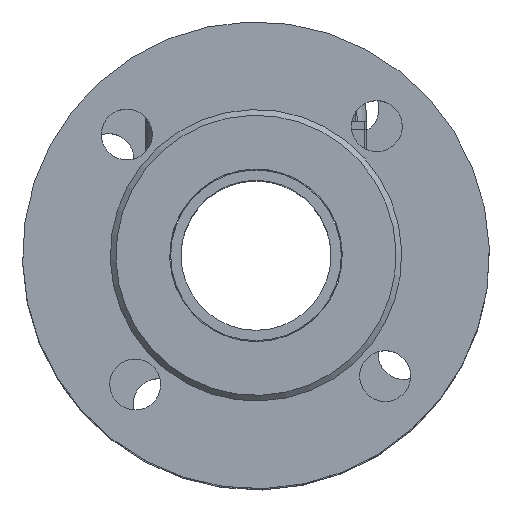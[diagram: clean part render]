
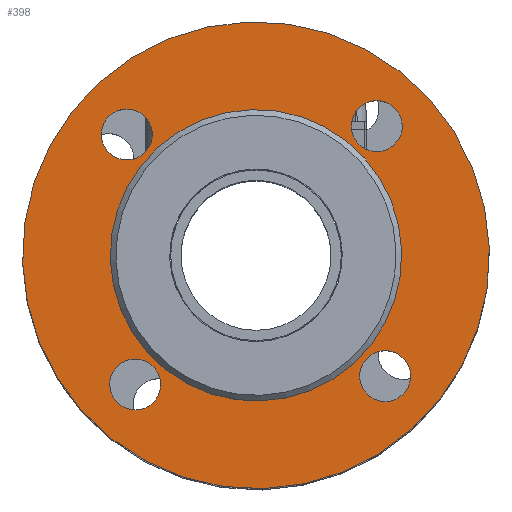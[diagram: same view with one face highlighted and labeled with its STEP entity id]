
A CAD part, top view. The second image highlights one B-rep face of the part: STEP entity #398.
In plain terms, the highlighted planar face has unit normal (0, 0, 1).
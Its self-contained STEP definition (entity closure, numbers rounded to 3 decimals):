
#398 = ADVANCED_FACE( '', ( #936, #937, #938, #939, #940, #941 ), #942, .T. );
#936 = FACE_BOUND( '', #1755, .T. );
#937 = FACE_BOUND( '', #1756, .T. );
#938 = FACE_BOUND( '', #1757, .T. );
#939 = FACE_BOUND( '', #1758, .T. );
#940 = FACE_OUTER_BOUND( '', #1759, .T. );
#941 = FACE_BOUND( '', #1760, .T. );
#942 = PLANE( '', #1761 );
#1755 = EDGE_LOOP( '', ( #5616 ) );
#1756 = EDGE_LOOP( '', ( #5617 ) );
#1757 = EDGE_LOOP( '', ( #5618 ) );
#1758 = EDGE_LOOP( '', ( #5619 ) );
#1759 = EDGE_LOOP( '', ( #5620 ) );
#1760 = EDGE_LOOP( '', ( #5621 ) );
#1761 = AXIS2_PLACEMENT_3D( '', #5622, #5623, #5624 );
#5616 = ORIENTED_EDGE( '', *, *, #7476, .T. );
#5617 = ORIENTED_EDGE( '', *, *, #7477, .T. );
#5618 = ORIENTED_EDGE( '', *, *, #7478, .T. );
#5619 = ORIENTED_EDGE( '', *, *, #7479, .T. );
#5620 = ORIENTED_EDGE( '', *, *, #7480, .T. );
#5621 = ORIENTED_EDGE( '', *, *, #7481, .F. );
#5622 = CARTESIAN_POINT( '', ( 82.5, 0., 18. ) );
#5623 = DIRECTION( '', ( 0., 0., 1. ) );
#5624 = DIRECTION( '', ( 1., 0., 0. ) );
#7476 = EDGE_CURVE( '', #8205, #8205, #8206, .T. );
#7477 = EDGE_CURVE( '', #8207, #8207, #8208, .T. );
#7478 = EDGE_CURVE( '', #8209, #8209, #8210, .T. );
#7479 = EDGE_CURVE( '', #8211, #8211, #8212, .T. );
#7480 = EDGE_CURVE( '', #8213, #8213, #8214, .T. );
#7481 = EDGE_CURVE( '', #8215, #8215, #8216, .T. );
#8205 = VERTEX_POINT( '', #9286 );
#8206 = CIRCLE( '', #9287, 9. );
#8207 = VERTEX_POINT( '', #9288 );
#8208 = CIRCLE( '', #9289, 9. );
#8209 = VERTEX_POINT( '', #9290 );
#8210 = CIRCLE( '', #9291, 9. );
#8211 = VERTEX_POINT( '', #9292 );
#8212 = CIRCLE( '', #9293, 9. );
#8213 = VERTEX_POINT( '', #9294 );
#8214 = CIRCLE( '', #9295, 82.5 );
#8215 = VERTEX_POINT( '', #9296 );
#8216 = CIRCLE( '', #9297, 51.5 );
#9286 = CARTESIAN_POINT( '', ( -44.194, -53.194, 18. ) );
#9287 = AXIS2_PLACEMENT_3D( '', #11792, #11793, #11794 );
#9288 = CARTESIAN_POINT( '', ( 44.194, -53.194, 18. ) );
#9289 = AXIS2_PLACEMENT_3D( '', #11795, #11796, #11797 );
#9290 = CARTESIAN_POINT( '', ( 44.194, 35.194, 18. ) );
#9291 = AXIS2_PLACEMENT_3D( '', #11798, #11799, #11800 );
#9292 = CARTESIAN_POINT( '', ( -44.194, 35.194, 18. ) );
#9293 = AXIS2_PLACEMENT_3D( '', #11801, #11802, #11803 );
#9294 = CARTESIAN_POINT( '', ( 82.5, 0., 18. ) );
#9295 = AXIS2_PLACEMENT_3D( '', #11804, #11805, #11806 );
#9296 = CARTESIAN_POINT( '', ( 51.5, 0., 18. ) );
#9297 = AXIS2_PLACEMENT_3D( '', #11807, #11808, #11809 );
#11792 = CARTESIAN_POINT( '', ( -44.194, -44.194, 18. ) );
#11793 = DIRECTION( '', ( 0., 0., -1. ) );
#11794 = DIRECTION( '', ( 0., -1., 0. ) );
#11795 = CARTESIAN_POINT( '', ( 44.194, -44.194, 18. ) );
#11796 = DIRECTION( '', ( 0., 0., -1. ) );
#11797 = DIRECTION( '', ( 0., -1., 0. ) );
#11798 = CARTESIAN_POINT( '', ( 44.194, 44.194, 18. ) );
#11799 = DIRECTION( '', ( 0., 0., -1. ) );
#11800 = DIRECTION( '', ( 0., -1., 0. ) );
#11801 = CARTESIAN_POINT( '', ( -44.194, 44.194, 18. ) );
#11802 = DIRECTION( '', ( 0., 0., -1. ) );
#11803 = DIRECTION( '', ( 0., -1., 0. ) );
#11804 = CARTESIAN_POINT( '', ( 0., 0., 18. ) );
#11805 = DIRECTION( '', ( 0., 0., 1. ) );
#11806 = DIRECTION( '', ( 1., 0., 0. ) );
#11807 = CARTESIAN_POINT( '', ( 0., 0., 18. ) );
#11808 = DIRECTION( '', ( 0., 0., 1. ) );
#11809 = DIRECTION( '', ( 1., 0., 0. ) );
